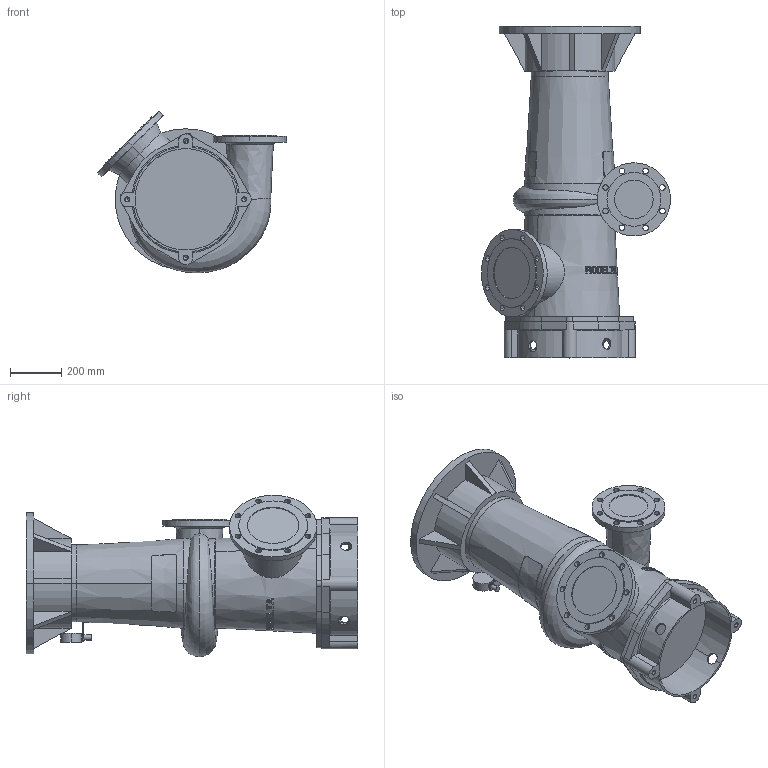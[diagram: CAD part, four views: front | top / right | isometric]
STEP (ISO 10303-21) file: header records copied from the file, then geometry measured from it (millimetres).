
FILE_DESCRIPTION((''),'2;1');
FILE_NAME('7410_VOOR_BLAD_ASM','2024-07-23T',('Lyritlocal'),(''),'PRO/ENGINEER BY PARAMETRIC TECHNOLOGY CORPORATION, 2016360','PRO/ENGINEER BY PARAMETRIC TECHNOLOGY CORPORATION, 2016360','');
FILE_SCHEMA(('CONFIG_CONTROL_DESIGN'));
Length unit declared in the file: millimetre
Products named in the file (3): 7410; 7410_VOET; 7410_VOOR_BLAD_ASM
Assembly tree (2 placements, depth 2):
  7410_VOOR_BLAD_ASM
    7410
    7410_VOET
Bounding box: 736.15 x 1292 x 629.8 mm (x, y, z)
Volume: 142858668 mm3; surface area: 3346063.5 mm2
Topology: 2 solids, 6 shells, 554 faces, 1491 edges, 983 vertices
Faces by surface type: plane 368, cylinder 138, cone 38, bspline 6, torus 4
Entity records: 19705 total; most frequent: CARTESIAN_POINT 6220, ORIENTED_EDGE 2950, DIRECTION 2529, EDGE_CURVE 1483, VERTEX_POINT 983, AXIS2_PLACEMENT_3D 961, EDGE_LOOP 646, VECTOR 607
